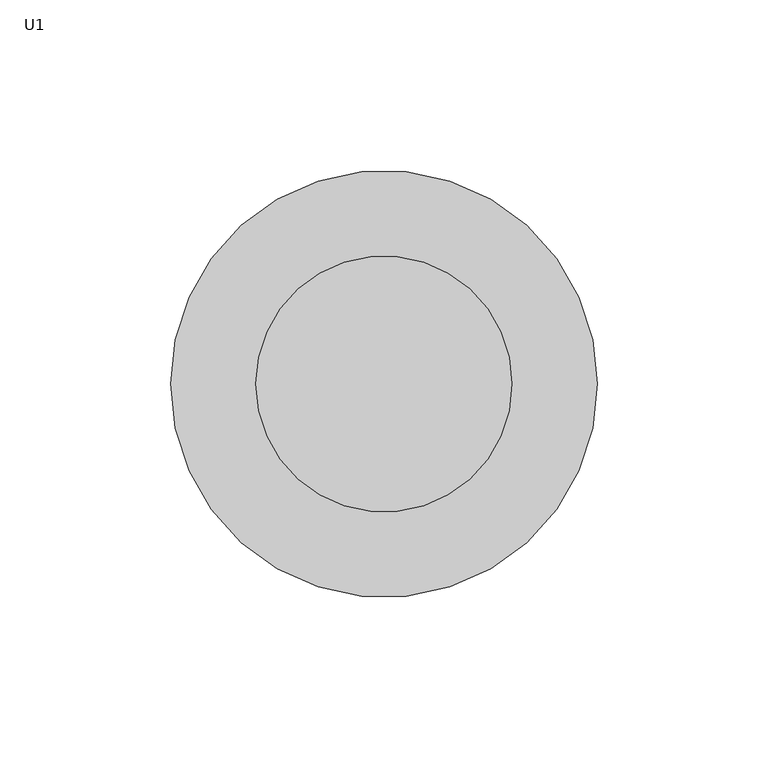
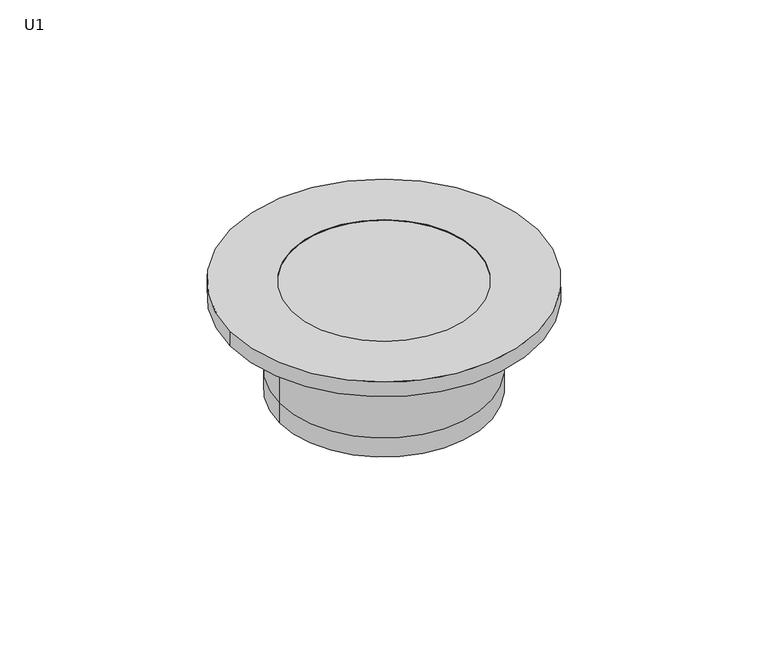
"""IFC4 building model written with IfcOpenShell, lengths in millimetres: light fixture geometry, Celing -Light : U1."""

from ifc_helpers import new_model, si_unit, point, frame, origin, origin_with_axes, origin_2d, place, context, project, spatial, polyline, circle_curve, trimmed, segment, composite_curve, outline, extrude, source, transform, mapped, element, save
from ifc_brep_helpers import plane_surface, cylinder_surface, revolved_surface, advanced_brep


def u1_3bccbc15(model_context):
    return source(origin(), model_context, "Body", "SolidModel", [
        extrude(outline(composite_curve([segment(trimmed(circle_curve(origin_2d(), 62.5), [point((-62.5, 0.0))], [point((62.5, 0.0))], False, "CARTESIAN"), True, "CONTINUOUS"), segment(trimmed(circle_curve(origin_2d(), 62.5), [point((62.5, 0.0))], [point((-62.5, 0.0))], False, "CARTESIAN"), True, "CONTINUOUS")], self_intersect=False), holes=[composite_curve([segment(trimmed(circle_curve(origin_2d(), 37.5), [point((-37.5, 0.0))], [point((37.5, 0.0))], True, "CARTESIAN"), True, "CONTINUOUS"), segment(trimmed(circle_curve(origin_2d(), 37.5), [point((37.5, 0.0))], [point((-37.5, 0.0))], True, "CARTESIAN"), True, "CONTINUOUS")], self_intersect=False)]), origin_with_axes(), (0.0, 0.0, 1.0), 6.35),
        extrude(outline(composite_curve([segment(trimmed(circle_curve(origin_2d(), 37.5), [point((-37.5, 0.0))], [point((37.5, 0.0))], False, "CARTESIAN"), True, "CONTINUOUS"), segment(trimmed(circle_curve(origin_2d(), 37.5), [point((37.5, 0.0))], [point((-37.5, 0.0))], False, "CARTESIAN"), True, "CONTINUOUS")], self_intersect=False)), origin_with_axes(), (0.0, 0.0, 1.0), 6.35),
        advanced_brep(
        [(-37.5, 0.0, -31.75), (37.5, 0.0, -31.75), (-42.5, 0.0, -40.0), (42.5, 0.0, -40.0), (42.5, 0.0, -31.75), (-42.5, 0.0, -31.75), (-42.5, 0.0, 0.0), (42.5, 0.0, 0.0), (-37.5, 0.0, 0.0), (37.5, 0.0, 0.0)],
        [
            (0, 1, circle_curve(frame((0.0, 0.0, -31.75), z_axis=(0.0, 0.0, 1.0), x_axis=(1.0, 0.0, 0.0)), 37.5)),
            (1, 0, circle_curve(frame((0.0, 0.0, -31.75), z_axis=(0.0, 0.0, 1.0), x_axis=(1.0, 0.0, 0.0)), 37.5)),
            (2, 3, circle_curve(frame((0.0, 0.0, -40.0), z_axis=(0.0, 0.0, -1.0), x_axis=(1.0, 0.0, 0.0)), 42.5)),
            (3, 2, circle_curve(frame((0.0, 0.0, -40.0), z_axis=(0.0, 0.0, -1.0), x_axis=(1.0, 0.0, 0.0)), 42.5)),
            (3, 4),
            (4, 5, circle_curve(frame((0.0, 0.0, -31.75), z_axis=(0.0, 0.0, -1.0), x_axis=(1.0, 0.0, 0.0)), 42.5)),
            (5, 2),
            (5, 4, circle_curve(frame((0.0, 0.0, -31.75), z_axis=(0.0, 0.0, -1.0), x_axis=(1.0, 0.0, 0.0)), 42.5)),
            (6, 7, circle_curve(origin_with_axes(), 42.5)),
            (7, 6, circle_curve(origin_with_axes(), 42.5)),
            (8, 9, circle_curve(frame((0.0, 0.0, 0.0), z_axis=(0.0, 0.0, -1.0), x_axis=(1.0, 0.0, 0.0)), 37.5)),
            (9, 8, circle_curve(frame((0.0, 0.0, 0.0), z_axis=(0.0, 0.0, -1.0), x_axis=(1.0, 0.0, 0.0)), 37.5)),
            (9, 1),
            (0, 8),
            (6, 5),
            (4, 7),
        ],
        [
            plane_surface(frame((42.5, 0.0, -31.75), z_axis=(0.0, 0.0, 1.0), x_axis=(0.0, 1.0, 0.0))),
            plane_surface(frame((42.5, 0.0, -40.0), z_axis=(0.0, 0.0, -1.0), x_axis=(0.0, -1.0, 0.0))),
            cylinder_surface(frame((0.0, 0.0, -40.0), z_axis=(0.0, 0.0, 1.0), x_axis=(1.0, 0.0, 0.0)), 42.5),
            plane_surface(frame((37.5, 0.0, 0.0), z_axis=(0.0, 0.0, 1.0), x_axis=(0.0, -1.0, 0.0))),
            revolved_surface(polyline([(37.5, 0.0, -31.75), (37.5, 0.0, 0.0)]), (0.0, 0.0, -31.75), (0.0, 0.0, -1.0)),
            cylinder_surface(origin_with_axes(), 42.5),
        ],
        [
            (0, [[1, 2]]),
            (1, [[3, 4]]),
            (2, [[-4, 5, 6, 7]]),
            (2, [[-3, -7, 8, -5]]),
            (3, [[9, 10], [11, 12]]),
            (4, [[-12, 13, -1, 14]]),
            (4, [[-11, -14, -2, -13]]),
            (5, [[-9, 15, -6, 16]]),
            (5, [[-10, -16, -8, -15]]),
        ],
    ),
    ])


if __name__ == "__main__":
    model = new_model("IFC4")
    model_context = context("Model", 3, world=origin())
    ifc_project = project(units=[si_unit("LENGTHUNIT", "METRE", prefix="MILLI")], contexts=[model_context])
    site = spatial("IfcSite", under=ifc_project)
    building = spatial("IfcBuilding", under=site)
    placement = place(None, origin())
    u1_shape = u1_3bccbc15(model_context)
    element("IfcLightFixture", 1, ObjectType="Celing -Light : U1", at=placement, inside=building, context=model_context, shape_type="MappedRepresentation", body=[
        mapped(u1_shape, transform((0.0, 0.0, 0.0), x_axis=(1.0, 0.0, 0.0), y_axis=(0.0, 1.0, 0.0), z_axis=(0.0, 0.0, 1.0))),
    ])
    save(model, "model.ifc")
